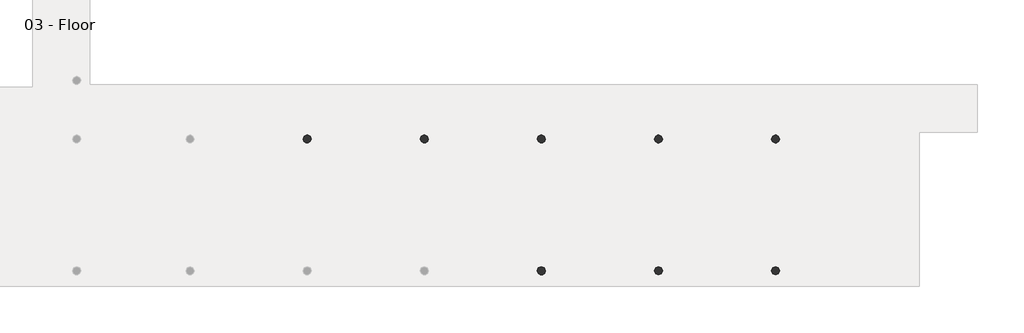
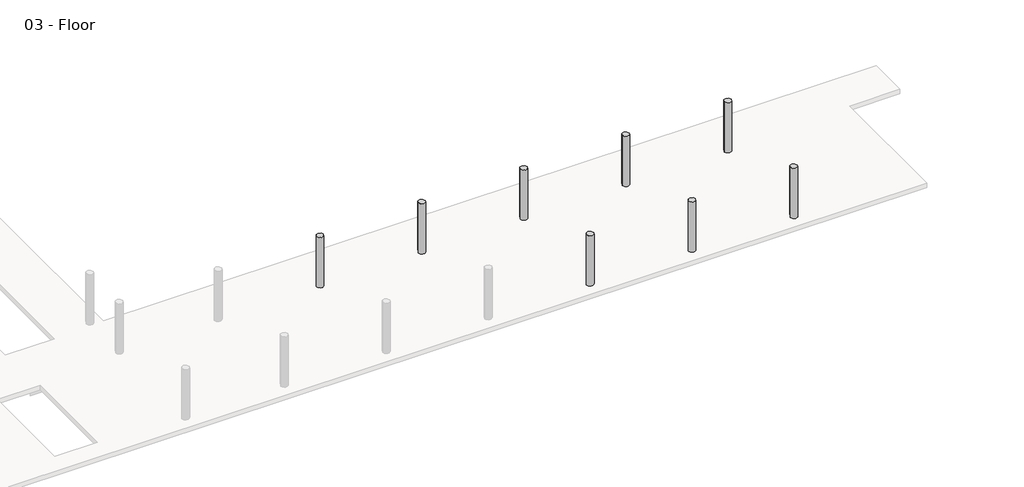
# One storey, part 4 of 8: 15 beams, 8 columns.
"""IFC4 building model written with IfcOpenShell, lengths in millimetres."""

from ifc_helpers import new_model, si_unit, point, frame, frame_2d, origin, place, context, project, spatial, polyline, circle_curve, trimmed, segment, composite_curve, outline, extrude, element, save
from ifc_brep_helpers import plane_surface, revolved_surface, advanced_brep

model = new_model("IFC4")

# Units and contexts
model_context = context("Model", 3, world=origin())
ifc_project = project(units=[si_unit("LENGTHUNIT", "METRE", prefix="MILLI")], contexts=[model_context])

# Site, building, storey
site = spatial("IfcSite", under=ifc_project)
building = spatial("IfcBuilding", under=site)
storey = spatial("IfcBuildingStorey", under=building, Name="03 - Floor", Elevation=7600.0)

# Beams
placement = place(None, origin())
element("IfcBeam", 1, ObjectType="M_Concrete-Rectangular Beam : 400 x 800mm", at=placement, inside=storey, context=model_context, shape_type="AdvancedBrep", body=[
    advanced_brep(
    [(32254.0005584, -15422.9390207, 6800.0), (32254.0005584, -15519.8613801, 6800.0), (32254.0005584, -22435.0613801, 6800.0), (32254.0005584, -22531.9837394, 6800.0), (32254.0005584, -22531.9837394, 7300.0), (32254.0005584, -22435.0613801, 7300.0), (32254.0005584, -15519.8613801, 7300.0), (32254.0005584, -15422.9390207, 7300.0), (32654.0005584, -15422.9390207, 6800.0), (32654.0005584, -15519.8613801, 6800.0), (32654.0005584, -22435.0613801, 6800.0), (32654.0005584, -22531.9837394, 6800.0), (32654.0005584, -15422.9390207, 7300.0), (32654.0005584, -15519.8613801, 7300.0), (32654.0005584, -22435.0613801, 7300.0), (32654.0005584, -22531.9837394, 7300.0)],
    [
        (0, 1),
        (1, 2),
        (2, 3),
        (3, 4),
        (4, 5),
        (5, 6),
        (6, 7),
        (7, 0),
        (0, 8, circle_curve(frame((32454.0005584, -15319.8613801, 6800.0), z_axis=(0.0, 0.0, 1.0), x_axis=(-1.0, 0.0, 0.0)), 225.0)),
        (8, 9),
        (9, 10),
        (10, 11),
        (11, 3, circle_curve(frame((32454.0005584, -22635.0613801, 6800.0), z_axis=(0.0, 0.0, 1.0), x_axis=(-1.0, 0.0, 0.0)), 225.0)),
        (8, 12),
        (12, 13),
        (13, 14),
        (14, 15),
        (15, 11),
        (7, 12, circle_curve(frame((32454.0005584, -15319.8613801, 7300.0), z_axis=(0.0, 0.0, 1.0), x_axis=(-1.0, 0.0, 0.0)), 225.0)),
        (15, 4, circle_curve(frame((32454.0005584, -22635.0613801, 7300.0), z_axis=(0.0, 0.0, 1.0), x_axis=(-1.0, 0.0, 0.0)), 225.0)),
    ],
    [
        plane_surface(frame((32254.0005584, -22397.3613801, 7600.0), z_axis=(-1.0, 0.0, 0.0), x_axis=(0.0, 1.0, 0.0))),
        plane_surface(frame((32254.0005584, -22397.3613801, 6800.0), z_axis=(0.0, 0.0, -1.0), x_axis=(0.0, 1.0, 0.0))),
        plane_surface(frame((32654.0005584, -22397.3613801, 6800.0), z_axis=(1.0, 0.0, 0.0), x_axis=(0.0, 1.0, 0.0))),
        revolved_surface(polyline([(32229.0005584, -15319.8613801, 7300.0), (32229.0005584, -15319.8613801, 6800.0)]), (32454.0005584, -15319.8613801, 3800.0), (0.0, 0.0, 1.0)),
        revolved_surface(polyline([(32229.0005584, -22635.0613801, 7300.0), (32229.0005584, -22635.0613801, 6800.0)]), (32454.0005584, -22635.0613801, 3800.0), (0.0, 0.0, 1.0)),
        plane_surface(frame((24268.8999097, 30514.0407562, 7300.0), z_axis=(0.0, 0.0, 1.0), x_axis=(0.0, -1.0, 0.0))),
    ],
    [
        (0, [[1, 2, 3, 4, 5, 6, 7, 8]]),
        (1, [[9, 10, 11, 12, 13, -3, -2, -1]]),
        (2, [[-12, -11, -10, 14, 15, 16, 17, 18]]),
        (3, [[-9, -8, 19, -14]]),
        (4, [[-13, -18, 20, -4]]),
        (5, [[-7, -6, -5, -20, -17, -16, -15, -19]]),
    ],
),
])
element("IfcBeam", 2, ObjectType="M_Concrete-Rectangular Beam : 400 x 800mm", at=placement, inside=storey, context=model_context, shape_type="AdvancedBrep", body=[
    advanced_brep(
    [(38756.4005584, -15422.9390207, 6800.0), (38756.4005584, -15519.8613801, 6800.0), (38756.4005584, -22435.0613801, 6800.0), (38756.4005584, -22531.9837394, 6800.0), (38756.4005584, -22531.9837394, 7300.0), (38756.4005584, -22435.0613801, 7300.0), (38756.4005584, -15519.8613801, 7300.0), (38756.4005584, -15422.9390207, 7300.0), (39156.4005584, -15422.9390207, 6800.0), (39156.4005584, -15519.8613801, 6800.0), (39156.4005584, -22435.0613801, 6800.0), (39156.4005584, -22531.9837394, 6800.0), (39156.4005584, -15422.9390207, 7300.0), (39156.4005584, -15519.8613801, 7300.0), (39156.4005584, -22435.0613801, 7300.0), (39156.4005584, -22531.9837394, 7300.0)],
    [
        (0, 1),
        (1, 2),
        (2, 3),
        (3, 4),
        (4, 5),
        (5, 6),
        (6, 7),
        (7, 0),
        (0, 8, circle_curve(frame((38956.4005584, -15319.8613801, 6800.0), z_axis=(0.0, 0.0, 1.0), x_axis=(-1.0, 0.0, 0.0)), 225.0)),
        (8, 9),
        (9, 10),
        (10, 11),
        (11, 3, circle_curve(frame((38956.4005584, -22635.0613801, 6800.0), z_axis=(0.0, 0.0, 1.0), x_axis=(-1.0, 0.0, 0.0)), 225.0)),
        (8, 12),
        (12, 13),
        (13, 14),
        (14, 15),
        (15, 11),
        (7, 12, circle_curve(frame((38956.4005584, -15319.8613801, 7300.0), z_axis=(0.0, 0.0, 1.0), x_axis=(-1.0, 0.0, 0.0)), 225.0)),
        (15, 4, circle_curve(frame((38956.4005584, -22635.0613801, 7300.0), z_axis=(0.0, 0.0, 1.0), x_axis=(-1.0, 0.0, 0.0)), 225.0)),
    ],
    [
        plane_surface(frame((38756.4005584, -22397.3613801, 7600.0), z_axis=(-1.0, 0.0, 0.0), x_axis=(0.0, 1.0, 0.0))),
        plane_surface(frame((38756.4005584, -22397.3613801, 6800.0), z_axis=(0.0, 0.0, -1.0), x_axis=(0.0, 1.0, 0.0))),
        plane_surface(frame((39156.4005584, -22397.3613801, 6800.0), z_axis=(1.0, 0.0, 0.0), x_axis=(0.0, 1.0, 0.0))),
        revolved_surface(polyline([(38731.4005584, -15319.8613801, 7300.0), (38731.4005584, -15319.8613801, 6800.0)]), (38956.4005584, -15319.8613801, 3800.0), (0.0, 0.0, 1.0)),
        revolved_surface(polyline([(38731.4005584, -22635.0613801, 7300.0), (38731.4005584, -22635.0613801, 6800.0)]), (38956.4005584, -22635.0613801, 3800.0), (0.0, 0.0, 1.0)),
        plane_surface(frame((24268.8999097, 30514.0407562, 7300.0), z_axis=(0.0, 0.0, 1.0), x_axis=(0.0, -1.0, 0.0))),
    ],
    [
        (0, [[1, 2, 3, 4, 5, 6, 7, 8]]),
        (1, [[9, 10, 11, 12, 13, -3, -2, -1]]),
        (2, [[-12, -11, -10, 14, 15, 16, 17, 18]]),
        (3, [[-9, -8, 19, -14]]),
        (4, [[-13, -18, 20, -4]]),
        (5, [[-7, -6, -5, -20, -17, -16, -15, -19]]),
    ],
),
])
element("IfcBeam", 3, ObjectType="M_Concrete-Rectangular Beam : 400 x 800mm", at=placement, inside=storey, context=model_context, shape_type="AdvancedBrep", body=[
    advanced_brep(
    [(45258.8005584, -15422.9390207, 6800.0), (45258.8005584, -15519.8613801, 6800.0), (45258.8005584, -22435.0613801, 6800.0), (45258.8005584, -22531.9837394, 6800.0), (45258.8005584, -22531.9837394, 7300.0), (45258.8005584, -22435.0613801, 7300.0), (45258.8005584, -15519.8613801, 7300.0), (45258.8005584, -15422.9390207, 7300.0), (45658.8005584, -15422.9390207, 6800.0), (45658.8005584, -15519.8613801, 6800.0), (45658.8005584, -22435.0613801, 6800.0), (45658.8005584, -22531.9837394, 6800.0), (45658.8005584, -15422.9390207, 7300.0), (45658.8005584, -15519.8613801, 7300.0), (45658.8005584, -22435.0613801, 7300.0), (45658.8005584, -22531.9837394, 7300.0)],
    [
        (0, 1),
        (1, 2),
        (2, 3),
        (3, 4),
        (4, 5),
        (5, 6),
        (6, 7),
        (7, 0),
        (0, 8, circle_curve(frame((45458.8005584, -15319.8613801, 6800.0), z_axis=(0.0, 0.0, 1.0), x_axis=(-1.0, 0.0, 0.0)), 225.0)),
        (8, 9),
        (9, 10),
        (10, 11),
        (11, 3, circle_curve(frame((45458.8005584, -22635.0613801, 6800.0), z_axis=(0.0, 0.0, 1.0), x_axis=(-1.0, 0.0, 0.0)), 225.0)),
        (8, 12),
        (12, 13),
        (13, 14),
        (14, 15),
        (15, 11),
        (7, 12, circle_curve(frame((45458.8005584, -15319.8613801, 7300.0), z_axis=(0.0, 0.0, 1.0), x_axis=(-1.0, 0.0, 0.0)), 225.0)),
        (15, 4, circle_curve(frame((45458.8005584, -22635.0613801, 7300.0), z_axis=(0.0, 0.0, 1.0), x_axis=(-1.0, 0.0, 0.0)), 225.0)),
    ],
    [
        plane_surface(frame((45258.8005584, -22397.3613801, 7600.0), z_axis=(-1.0, 0.0, 0.0), x_axis=(0.0, 1.0, 0.0))),
        plane_surface(frame((45258.8005584, -22397.3613801, 6800.0), z_axis=(0.0, 0.0, -1.0), x_axis=(0.0, 1.0, 0.0))),
        plane_surface(frame((45658.8005584, -22397.3613801, 6800.0), z_axis=(1.0, 0.0, 0.0), x_axis=(0.0, 1.0, 0.0))),
        revolved_surface(polyline([(45233.8005584, -15319.8613801, 7300.0), (45233.8005584, -15319.8613801, 6800.0)]), (45458.8005584, -15319.8613801, 3800.0), (0.0, 0.0, 1.0)),
        revolved_surface(polyline([(45233.8005584, -22635.0613801, 7300.0), (45233.8005584, -22635.0613801, 6800.0)]), (45458.8005584, -22635.0613801, 3800.0), (0.0, 0.0, 1.0)),
        plane_surface(frame((24268.8999097, 30514.0407562, 7300.0), z_axis=(0.0, 0.0, 1.0), x_axis=(0.0, -1.0, 0.0))),
    ],
    [
        (0, [[1, 2, 3, 4, 5, 6, 7, 8]]),
        (1, [[9, 10, 11, 12, 13, -3, -2, -1]]),
        (2, [[-12, -11, -10, 14, 15, 16, 17, 18]]),
        (3, [[-9, -8, 19, -14]]),
        (4, [[-13, -18, 20, -4]]),
        (5, [[-7, -6, -5, -20, -17, -16, -15, -19]]),
    ],
),
])
element("IfcBeam", 4, ObjectType="M_Concrete-Rectangular Beam : 400 x 800mm", at=placement, inside=storey, context=model_context, shape_type="AdvancedBrep", body=[
    advanced_brep(
    [(45355.7229178, -15119.8613801, 6800.0), (45258.8005584, -15119.8613801, 6800.0), (39156.4005584, -15119.8613801, 6800.0), (39059.478199, -15119.8613801, 6800.0), (39059.478199, -15119.8613801, 7300.0), (39156.4005584, -15119.8613801, 7300.0), (45258.8005584, -15119.8613801, 7300.0), (45355.7229178, -15119.8613801, 7300.0), (39156.4005584, -15519.8613801, 6800.0), (39156.4005584, -15422.9390207, 6800.0), (39181.4005584, -15319.8613801, 6800.0), (45233.8005584, -15319.8613801, 6800.0), (45258.8005584, -15422.9390207, 6800.0), (45258.8005584, -15519.8613801, 6800.0), (45258.8005584, -15519.8613801, 7300.0), (39156.4005584, -15519.8613801, 7300.0), (39156.4005584, -15422.9390207, 7300.0), (39181.4005584, -15319.8613801, 7300.0), (45258.8005584, -15422.9390207, 7300.0), (45233.8005584, -15319.8613801, 7300.0)],
    [
        (0, 1),
        (1, 2),
        (2, 3),
        (3, 4),
        (4, 5),
        (5, 6),
        (6, 7),
        (7, 0),
        (8, 9),
        (9, 10, circle_curve(frame((38956.4005584, -15319.8613801, 6800.0), z_axis=(0.0, 0.0, 1.0), x_axis=(-1.0, 0.0, 0.0)), 225.0)),
        (10, 3, circle_curve(frame((38956.4005584, -15319.8613801, 6800.0), z_axis=(0.0, 0.0, 1.0), x_axis=(-1.0, 0.0, 0.0)), 225.0)),
        (0, 11, circle_curve(frame((45458.8005584, -15319.8613801, 6800.0), z_axis=(0.0, 0.0, 1.0), x_axis=(-1.0, 0.0, 0.0)), 225.0)),
        (11, 12, circle_curve(frame((45458.8005584, -15319.8613801, 6800.0), z_axis=(0.0, 0.0, 1.0), x_axis=(-1.0, 0.0, 0.0)), 225.0)),
        (12, 13),
        (13, 8),
        (13, 14),
        (14, 15),
        (15, 8),
        (15, 16),
        (16, 9),
        (16, 17, circle_curve(frame((38956.4005584, -15319.8613801, 7300.0), z_axis=(0.0, 0.0, 1.0), x_axis=(-1.0, 0.0, 0.0)), 225.0)),
        (17, 10),
        (17, 4, circle_curve(frame((38956.4005584, -15319.8613801, 7300.0), z_axis=(0.0, 0.0, 1.0), x_axis=(-1.0, 0.0, 0.0)), 225.0)),
        (12, 18),
        (18, 14),
        (11, 19),
        (19, 18, circle_curve(frame((45458.8005584, -15319.8613801, 7300.0), z_axis=(0.0, 0.0, 1.0), x_axis=(-1.0, 0.0, 0.0)), 225.0)),
        (7, 19, circle_curve(frame((45458.8005584, -15319.8613801, 7300.0), z_axis=(0.0, 0.0, 1.0), x_axis=(-1.0, 0.0, 0.0)), 225.0)),
    ],
    [
        plane_surface(frame((39194.1005584, -15119.8613801, 7200.0), z_axis=(0.0, 1.0, 0.0), x_axis=(0.0, 0.0, -1.0))),
        plane_surface(frame((39194.1005584, -15319.8613801, 6800.0), z_axis=(0.0, 0.0, -1.0), x_axis=(0.0, -1.0, 0.0))),
        plane_surface(frame((39194.1005584, -15519.8613801, 7200.0), z_axis=(0.0, -1.0, 0.0), x_axis=(0.0, 0.0, 1.0))),
        plane_surface(frame((39156.4005584, -22397.3613801, 6800.0), z_axis=(-1.0, 0.0, 0.0), x_axis=(0.0, 1.0, 0.0))),
        revolved_surface(polyline([(38731.4005584, -15319.8613801, 7300.0), (38731.4005584, -15319.8613801, 6800.0)]), (38956.4005584, -15319.8613801, 3800.0), (0.0, 0.0, 1.0)),
        plane_surface(frame((45258.8005584, -22397.3613801, 7600.0), z_axis=(1.0, 0.0, 0.0), x_axis=(0.0, 1.0, 0.0))),
        revolved_surface(polyline([(45233.8005584, -15319.8613801, 7300.0), (45233.8005584, -15319.8613801, 6800.0)]), (45458.8005584, -15319.8613801, 3800.0), (0.0, 0.0, 1.0)),
        plane_surface(frame((24268.8999097, 30514.0407562, 7300.0), z_axis=(0.0, 0.0, 1.0), x_axis=(0.0, -1.0, 0.0))),
    ],
    [
        (0, [[1, 2, 3, 4, 5, 6, 7, 8]]),
        (1, [[9, 10, 11, -3, -2, -1, 12, 13, 14, 15]]),
        (2, [[-15, 16, 17, 18]]),
        (3, [[-9, -18, 19, 20]]),
        (4, [[-10, -20, 21, 22]]),
        (4, [[-11, -22, 23, -4]]),
        (5, [[-14, 24, 25, -16]]),
        (6, [[-13, 26, 27, -24]]),
        (6, [[-12, -8, 28, -26]]),
        (7, [[-7, -6, -5, -23, -21, -19, -17, -25, -27, -28]]),
    ],
),
])
element("IfcBeam", 5, ObjectType="M_Concrete-Rectangular Beam : 400 x 800mm", at=placement, inside=storey, context=model_context, shape_type="AdvancedBrep", body=[
    advanced_brep(
    [(38853.3229178, -15119.8613801, 6800.0), (38756.4005584, -15119.8613801, 6800.0), (32654.0005584, -15119.8613801, 6800.0), (32557.078199, -15119.8613801, 6800.0), (32557.078199, -15119.8613801, 7300.0), (32654.0005584, -15119.8613801, 7300.0), (38756.4005584, -15119.8613801, 7300.0), (38853.3229178, -15119.8613801, 7300.0), (32654.0005584, -15519.8613801, 6800.0), (32654.0005584, -15422.9390207, 6800.0), (32679.0005584, -15319.8613801, 6800.0), (38731.4005584, -15319.8613801, 6800.0), (38756.4005584, -15422.9390207, 6800.0), (38756.4005584, -15519.8613801, 6800.0), (38756.4005584, -15519.8613801, 7300.0), (32654.0005584, -15519.8613801, 7300.0), (32654.0005584, -15422.9390207, 7300.0), (32679.0005584, -15319.8613801, 7300.0), (38756.4005584, -15422.9390207, 7300.0), (38731.4005584, -15319.8613801, 7300.0)],
    [
        (0, 1),
        (1, 2),
        (2, 3),
        (3, 4),
        (4, 5),
        (5, 6),
        (6, 7),
        (7, 0),
        (8, 9),
        (9, 10, circle_curve(frame((32454.0005584, -15319.8613801, 6800.0), z_axis=(0.0, 0.0, 1.0), x_axis=(-1.0, 0.0, 0.0)), 225.0)),
        (10, 3, circle_curve(frame((32454.0005584, -15319.8613801, 6800.0), z_axis=(0.0, 0.0, 1.0), x_axis=(-1.0, 0.0, 0.0)), 225.0)),
        (0, 11, circle_curve(frame((38956.4005584, -15319.8613801, 6800.0), z_axis=(0.0, 0.0, 1.0), x_axis=(-1.0, 0.0, 0.0)), 225.0)),
        (11, 12, circle_curve(frame((38956.4005584, -15319.8613801, 6800.0), z_axis=(0.0, 0.0, 1.0), x_axis=(-1.0, 0.0, 0.0)), 225.0)),
        (12, 13),
        (13, 8),
        (13, 14),
        (14, 15),
        (15, 8),
        (15, 16),
        (16, 9),
        (16, 17, circle_curve(frame((32454.0005584, -15319.8613801, 7300.0), z_axis=(0.0, 0.0, 1.0), x_axis=(-1.0, 0.0, 0.0)), 225.0)),
        (17, 10),
        (17, 4, circle_curve(frame((32454.0005584, -15319.8613801, 7300.0), z_axis=(0.0, 0.0, 1.0), x_axis=(-1.0, 0.0, 0.0)), 225.0)),
        (12, 18),
        (18, 14),
        (11, 19),
        (19, 18, circle_curve(frame((38956.4005584, -15319.8613801, 7300.0), z_axis=(0.0, 0.0, 1.0), x_axis=(-1.0, 0.0, 0.0)), 225.0)),
        (7, 19, circle_curve(frame((38956.4005584, -15319.8613801, 7300.0), z_axis=(0.0, 0.0, 1.0), x_axis=(-1.0, 0.0, 0.0)), 225.0)),
    ],
    [
        plane_surface(frame((32691.7005584, -15119.8613801, 7200.0), z_axis=(0.0, 1.0, 0.0), x_axis=(0.0, 0.0, -1.0))),
        plane_surface(frame((32691.7005584, -15319.8613801, 6800.0), z_axis=(0.0, 0.0, -1.0), x_axis=(0.0, -1.0, 0.0))),
        plane_surface(frame((32691.7005584, -15519.8613801, 7200.0), z_axis=(0.0, -1.0, 0.0), x_axis=(0.0, 0.0, 1.0))),
        plane_surface(frame((32654.0005584, -22397.3613801, 6800.0), z_axis=(-1.0, 0.0, 0.0), x_axis=(0.0, 1.0, 0.0))),
        revolved_surface(polyline([(32229.0005584, -15319.8613801, 7300.0), (32229.0005584, -15319.8613801, 6800.0)]), (32454.0005584, -15319.8613801, 3800.0), (0.0, 0.0, 1.0)),
        plane_surface(frame((38756.4005584, -22397.3613801, 7600.0), z_axis=(1.0, 0.0, 0.0), x_axis=(0.0, 1.0, 0.0))),
        revolved_surface(polyline([(38731.4005584, -15319.8613801, 7300.0), (38731.4005584, -15319.8613801, 6800.0)]), (38956.4005584, -15319.8613801, 3800.0), (0.0, 0.0, 1.0)),
        plane_surface(frame((24268.8999097, 30514.0407562, 7300.0), z_axis=(0.0, 0.0, 1.0), x_axis=(0.0, -1.0, 0.0))),
    ],
    [
        (0, [[1, 2, 3, 4, 5, 6, 7, 8]]),
        (1, [[9, 10, 11, -3, -2, -1, 12, 13, 14, 15]]),
        (2, [[-15, 16, 17, 18]]),
        (3, [[-9, -18, 19, 20]]),
        (4, [[-10, -20, 21, 22]]),
        (4, [[-11, -22, 23, -4]]),
        (5, [[-14, 24, 25, -16]]),
        (6, [[-13, 26, 27, -24]]),
        (6, [[-12, -8, 28, -26]]),
        (7, [[-7, -6, -5, -23, -21, -19, -17, -25, -27, -28]]),
    ],
),
])
element("IfcBeam", 6, ObjectType="M_Concrete-Rectangular Beam : 400 x 800mm", at=placement, inside=storey, context=model_context, shape_type="AdvancedBrep", body=[
    advanced_brep(
    [(32350.9229178, -15119.8613801, 6800.0), (32254.0005584, -15119.8613801, 6800.0), (26151.6005584, -15119.8613801, 6800.0), (26054.678199, -15119.8613801, 6800.0), (26054.678199, -15119.8613801, 7300.0), (26151.6005584, -15119.8613801, 7300.0), (32254.0005584, -15119.8613801, 7300.0), (32350.9229178, -15119.8613801, 7300.0), (26151.6005584, -15519.8613801, 6800.0), (26151.6005584, -15422.9390207, 6800.0), (26176.6005584, -15319.8613801, 6800.0), (32229.0005584, -15319.8613801, 6800.0), (32254.0005584, -15422.9390207, 6800.0), (32254.0005584, -15519.8613801, 6800.0), (32254.0005584, -15519.8613801, 7300.0), (26151.6005584, -15519.8613801, 7300.0), (26151.6005584, -15422.9390207, 7300.0), (26176.6005584, -15319.8613801, 7300.0), (32254.0005584, -15422.9390207, 7300.0), (32229.0005584, -15319.8613801, 7300.0)],
    [
        (0, 1),
        (1, 2),
        (2, 3),
        (3, 4),
        (4, 5),
        (5, 6),
        (6, 7),
        (7, 0),
        (8, 9),
        (9, 10, circle_curve(frame((25951.6005584, -15319.8613801, 6800.0), z_axis=(0.0, 0.0, 1.0), x_axis=(-1.0, 0.0, 0.0)), 225.0)),
        (10, 3, circle_curve(frame((25951.6005584, -15319.8613801, 6800.0), z_axis=(0.0, 0.0, 1.0), x_axis=(-1.0, 0.0, 0.0)), 225.0)),
        (0, 11, circle_curve(frame((32454.0005584, -15319.8613801, 6800.0), z_axis=(0.0, 0.0, 1.0), x_axis=(-1.0, 0.0, 0.0)), 225.0)),
        (11, 12, circle_curve(frame((32454.0005584, -15319.8613801, 6800.0), z_axis=(0.0, 0.0, 1.0), x_axis=(-1.0, 0.0, 0.0)), 225.0)),
        (12, 13),
        (13, 8),
        (13, 14),
        (14, 15),
        (15, 8),
        (15, 16),
        (16, 9),
        (16, 17, circle_curve(frame((25951.6005584, -15319.8613801, 7300.0), z_axis=(0.0, 0.0, 1.0), x_axis=(-1.0, 0.0, 0.0)), 225.0)),
        (17, 10),
        (17, 4, circle_curve(frame((25951.6005584, -15319.8613801, 7300.0), z_axis=(0.0, 0.0, 1.0), x_axis=(-1.0, 0.0, 0.0)), 225.0)),
        (12, 18),
        (18, 14),
        (11, 19),
        (19, 18, circle_curve(frame((32454.0005584, -15319.8613801, 7300.0), z_axis=(0.0, 0.0, 1.0), x_axis=(-1.0, 0.0, 0.0)), 225.0)),
        (7, 19, circle_curve(frame((32454.0005584, -15319.8613801, 7300.0), z_axis=(0.0, 0.0, 1.0), x_axis=(-1.0, 0.0, 0.0)), 225.0)),
    ],
    [
        plane_surface(frame((26189.3005584, -15119.8613801, 7200.0), z_axis=(0.0, 1.0, 0.0), x_axis=(0.0, 0.0, -1.0))),
        plane_surface(frame((26189.3005584, -15319.8613801, 6800.0), z_axis=(0.0, 0.0, -1.0), x_axis=(0.0, -1.0, 0.0))),
        plane_surface(frame((26189.3005584, -15519.8613801, 7200.0), z_axis=(0.0, -1.0, 0.0), x_axis=(0.0, 0.0, 1.0))),
        plane_surface(frame((26151.6005584, -22397.3613801, 6800.0), z_axis=(-1.0, 0.0, 0.0), x_axis=(0.0, 1.0, 0.0))),
        revolved_surface(polyline([(25726.6005584, -15319.8613801, 7300.0), (25726.6005584, -15319.8613801, 6800.0)]), (25951.6005584, -15319.8613801, 3800.0), (0.0, 0.0, 1.0)),
        plane_surface(frame((32254.0005584, -22397.3613801, 7600.0), z_axis=(1.0, 0.0, 0.0), x_axis=(0.0, 1.0, 0.0))),
        revolved_surface(polyline([(32229.0005584, -15319.8613801, 7300.0), (32229.0005584, -15319.8613801, 6800.0)]), (32454.0005584, -15319.8613801, 3800.0), (0.0, 0.0, 1.0)),
        plane_surface(frame((24268.8999097, 30514.0407562, 7300.0), z_axis=(0.0, 0.0, 1.0), x_axis=(0.0, -1.0, 0.0))),
    ],
    [
        (0, [[1, 2, 3, 4, 5, 6, 7, 8]]),
        (1, [[9, 10, 11, -3, -2, -1, 12, 13, 14, 15]]),
        (2, [[-15, 16, 17, 18]]),
        (3, [[-9, -18, 19, 20]]),
        (4, [[-10, -20, 21, 22]]),
        (4, [[-11, -22, 23, -4]]),
        (5, [[-14, 24, 25, -16]]),
        (6, [[-13, 26, 27, -24]]),
        (6, [[-12, -8, 28, -26]]),
        (7, [[-7, -6, -5, -23, -21, -19, -17, -25, -27, -28]]),
    ],
),
])
element("IfcBeam", 7, ObjectType="M_Concrete-Rectangular Beam : 400 x 800mm", at=placement, inside=storey, context=model_context, shape_type="AdvancedBrep", body=[
    advanced_brep(
    [(25848.5229178, -15119.8613801, 6800.0), (25751.6005584, -15119.8613801, 6800.0), (19649.2005584, -15119.8613801, 6800.0), (19552.278199, -15119.8613801, 6800.0), (19552.278199, -15119.8613801, 7300.0), (19649.2005584, -15119.8613801, 7300.0), (25751.6005584, -15119.8613801, 7300.0), (25848.5229178, -15119.8613801, 7300.0), (19674.2005584, -15319.8613801, 6800.0), (25726.6005584, -15319.8613801, 6800.0), (25751.6005584, -15422.9390207, 6800.0), (25751.6005584, -15519.8613801, 6800.0), (19649.2005584, -15519.8613801, 6800.0), (19649.2005584, -15422.9390207, 6800.0), (25751.6005584, -15519.8613801, 7300.0), (19649.2005584, -15519.8613801, 7300.0), (19649.2005584, -15422.9390207, 7300.0), (19674.2005584, -15319.8613801, 7300.0), (25751.6005584, -15422.9390207, 7300.0), (25726.6005584, -15319.8613801, 7300.0)],
    [
        (0, 1),
        (1, 2),
        (2, 3),
        (3, 4),
        (4, 5),
        (5, 6),
        (6, 7),
        (7, 0),
        (8, 3, circle_curve(frame((19449.2005584, -15319.8613801, 6800.0), z_axis=(0.0, 0.0, 1.0), x_axis=(-1.0, 0.0, 0.0)), 225.0)),
        (0, 9, circle_curve(frame((25951.6005584, -15319.8613801, 6800.0), z_axis=(0.0, 0.0, 1.0), x_axis=(-1.0, 0.0, 0.0)), 225.0)),
        (9, 10, circle_curve(frame((25951.6005584, -15319.8613801, 6800.0), z_axis=(0.0, 0.0, 1.0), x_axis=(-1.0, 0.0, 0.0)), 225.0)),
        (10, 11),
        (11, 12),
        (12, 13),
        (13, 8, circle_curve(frame((19449.2005584, -15319.8613801, 6800.0), z_axis=(0.0, 0.0, 1.0), x_axis=(-1.0, 0.0, 0.0)), 225.0)),
        (11, 14),
        (14, 15),
        (15, 12),
        (13, 16),
        (16, 17, circle_curve(frame((19449.2005584, -15319.8613801, 7300.0), z_axis=(0.0, 0.0, 1.0), x_axis=(-1.0, 0.0, 0.0)), 225.0)),
        (17, 8),
        (17, 4, circle_curve(frame((19449.2005584, -15319.8613801, 7300.0), z_axis=(0.0, 0.0, 1.0), x_axis=(-1.0, 0.0, 0.0)), 225.0)),
        (10, 18),
        (18, 14),
        (9, 19),
        (19, 18, circle_curve(frame((25951.6005584, -15319.8613801, 7300.0), z_axis=(0.0, 0.0, 1.0), x_axis=(-1.0, 0.0, 0.0)), 225.0)),
        (7, 19, circle_curve(frame((25951.6005584, -15319.8613801, 7300.0), z_axis=(0.0, 0.0, 1.0), x_axis=(-1.0, 0.0, 0.0)), 225.0)),
        (15, 16),
    ],
    [
        plane_surface(frame((19686.9005584, -15119.8613801, 7200.0), z_axis=(0.0, 1.0, 0.0), x_axis=(0.0, 0.0, -1.0))),
        plane_surface(frame((19686.9005584, -15319.8613801, 6800.0), z_axis=(0.0, 0.0, -1.0), x_axis=(0.0, -1.0, 0.0))),
        plane_surface(frame((19686.9005584, -15519.8613801, 7200.0), z_axis=(0.0, -1.0, 0.0), x_axis=(0.0, 0.0, 1.0))),
        revolved_surface(polyline([(19224.2005584, -15319.8613801, 7300.0), (19224.2005584, -15319.8613801, 6800.0)]), (19449.2005584, -15319.8613801, 3800.0), (0.0, 0.0, 1.0)),
        plane_surface(frame((25751.6005584, -22397.3613801, 7600.0), z_axis=(1.0, 0.0, 0.0), x_axis=(0.0, 1.0, 0.0))),
        revolved_surface(polyline([(25726.6005584, -15319.8613801, 7300.0), (25726.6005584, -15319.8613801, 6800.0)]), (25951.6005584, -15319.8613801, 3800.0), (0.0, 0.0, 1.0)),
        plane_surface(frame((19649.2005584, -22397.3613801, 6800.0), z_axis=(-1.0, 0.0, 0.0), x_axis=(0.0, 1.0, 0.0))),
        plane_surface(frame((24268.8999097, 30514.0407562, 7300.0), z_axis=(0.0, 0.0, 1.0), x_axis=(0.0, -1.0, 0.0))),
    ],
    [
        (0, [[1, 2, 3, 4, 5, 6, 7, 8]]),
        (1, [[9, -3, -2, -1, 10, 11, 12, 13, 14, 15]]),
        (2, [[-13, 16, 17, 18]]),
        (3, [[-15, 19, 20, 21]]),
        (3, [[-9, -21, 22, -4]]),
        (4, [[-12, 23, 24, -16]]),
        (5, [[-11, 25, 26, -23]]),
        (5, [[-10, -8, 27, -25]]),
        (6, [[-14, -18, 28, -19]]),
        (7, [[-7, -6, -5, -22, -20, -28, -17, -24, -26, -27]]),
    ],
),
])
element("IfcBeam", 8, ObjectType="M_Concrete-Rectangular Beam : 400 x 800mm", at=placement, inside=storey, context=model_context, shape_type="AdvancedBrep", body=[
    advanced_brep(
    [(19346.1229178, -15119.8613801, 6800.0), (19249.2005584, -15119.8613801, 6800.0), (13146.8005584, -15119.8613801, 6800.0), (13049.878199, -15119.8613801, 6800.0), (13049.878199, -15119.8613801, 7300.0), (13146.8005584, -15119.8613801, 7300.0), (19249.2005584, -15119.8613801, 7300.0), (19346.1229178, -15119.8613801, 7300.0), (13171.8005584, -15319.8613801, 6800.0), (19224.2005584, -15319.8613801, 6800.0), (19249.2005584, -15422.9390207, 6800.0), (19249.2005584, -15519.8613801, 6800.0), (13146.8005584, -15519.8613801, 6800.0), (13146.8005584, -15422.9390207, 6800.0), (19249.2005584, -15519.8613801, 7300.0), (13146.8005584, -15519.8613801, 7300.0), (13146.8005584, -15422.9390207, 7300.0), (13171.8005584, -15319.8613801, 7300.0), (19249.2005584, -15422.9390207, 7300.0), (19224.2005584, -15319.8613801, 7300.0)],
    [
        (0, 1),
        (1, 2),
        (2, 3),
        (3, 4),
        (4, 5),
        (5, 6),
        (6, 7),
        (7, 0),
        (8, 3, circle_curve(frame((12946.8005584, -15319.8613801, 6800.0), z_axis=(0.0, 0.0, 1.0), x_axis=(-1.0, 0.0, 0.0)), 225.0)),
        (0, 9, circle_curve(frame((19449.2005584, -15319.8613801, 6800.0), z_axis=(0.0, 0.0, 1.0), x_axis=(-1.0, 0.0, 0.0)), 225.0)),
        (9, 10, circle_curve(frame((19449.2005584, -15319.8613801, 6800.0), z_axis=(0.0, 0.0, 1.0), x_axis=(-1.0, 0.0, 0.0)), 225.0)),
        (10, 11),
        (11, 12),
        (12, 13),
        (13, 8, circle_curve(frame((12946.8005584, -15319.8613801, 6800.0), z_axis=(0.0, 0.0, 1.0), x_axis=(-1.0, 0.0, 0.0)), 225.0)),
        (11, 14),
        (14, 15),
        (15, 12),
        (13, 16),
        (16, 17, circle_curve(frame((12946.8005584, -15319.8613801, 7300.0), z_axis=(0.0, 0.0, 1.0), x_axis=(-1.0, 0.0, 0.0)), 225.0)),
        (17, 8),
        (17, 4, circle_curve(frame((12946.8005584, -15319.8613801, 7300.0), z_axis=(0.0, 0.0, 1.0), x_axis=(-1.0, 0.0, 0.0)), 225.0)),
        (10, 18),
        (18, 14),
        (9, 19),
        (19, 18, circle_curve(frame((19449.2005584, -15319.8613801, 7300.0), z_axis=(0.0, 0.0, 1.0), x_axis=(-1.0, 0.0, 0.0)), 225.0)),
        (7, 19, circle_curve(frame((19449.2005584, -15319.8613801, 7300.0), z_axis=(0.0, 0.0, 1.0), x_axis=(-1.0, 0.0, 0.0)), 225.0)),
        (15, 16),
    ],
    [
        plane_surface(frame((13184.5005584, -15119.8613801, 7200.0), z_axis=(0.0, 1.0, 0.0), x_axis=(0.0, 0.0, -1.0))),
        plane_surface(frame((13184.5005584, -15319.8613801, 6800.0), z_axis=(0.0, 0.0, -1.0), x_axis=(0.0, -1.0, 0.0))),
        plane_surface(frame((13184.5005584, -15519.8613801, 7200.0), z_axis=(0.0, -1.0, 0.0), x_axis=(0.0, 0.0, 1.0))),
        revolved_surface(polyline([(12721.8005584, -15319.8613801, 7300.0), (12721.8005584, -15319.8613801, 6800.0)]), (12946.8005584, -15319.8613801, 3800.0), (0.0, 0.0, 1.0)),
        plane_surface(frame((19249.2005584, -22397.3613801, 7600.0), z_axis=(1.0, 0.0, 0.0), x_axis=(0.0, 1.0, 0.0))),
        revolved_surface(polyline([(19224.2005584, -15319.8613801, 7300.0), (19224.2005584, -15319.8613801, 6800.0)]), (19449.2005584, -15319.8613801, 3800.0), (0.0, 0.0, 1.0)),
        plane_surface(frame((13146.8005584, -22397.3613801, 6800.0), z_axis=(-1.0, 0.0, 0.0), x_axis=(0.0, 1.0, 0.0))),
        plane_surface(frame((24268.8999097, 30514.0407562, 7300.0), z_axis=(0.0, 0.0, 1.0), x_axis=(0.0, -1.0, 0.0))),
    ],
    [
        (0, [[1, 2, 3, 4, 5, 6, 7, 8]]),
        (1, [[9, -3, -2, -1, 10, 11, 12, 13, 14, 15]]),
        (2, [[-13, 16, 17, 18]]),
        (3, [[-15, 19, 20, 21]]),
        (3, [[-9, -21, 22, -4]]),
        (4, [[-12, 23, 24, -16]]),
        (5, [[-11, 25, 26, -23]]),
        (5, [[-10, -8, 27, -25]]),
        (6, [[-14, -18, 28, -19]]),
        (7, [[-7, -6, -5, -22, -20, -28, -17, -24, -26, -27]]),
    ],
),
])
element("IfcBeam", 9, ObjectType="M_Concrete-Rectangular Beam : 400 x 800mm", at=placement, inside=storey, context=model_context, shape_type="SweptSolid", body=[
    extrude(outline(composite_curve([segment(polyline([(45658.8005584, -22531.9837394), (45658.8005584, -22435.0613801), (53429.578114, -22435.0613801), (53429.578114, -22835.0613801), (45561.878199, -22835.0613801)]), True, "CONTINUOUS"), segment(trimmed(circle_curve(frame_2d((45458.8005584, -22635.0613801)), 225.0), [point((45561.878199, -22835.0613801))], [point((45683.8005584, -22635.0613801))], True, "CARTESIAN"), True, "CONTINUOUS"), segment(trimmed(circle_curve(frame_2d((45458.8005584, -22635.0613801)), 225.0), [point((45683.8005584, -22635.0613801))], [point((45658.8005584, -22531.9837394))], True, "CARTESIAN"), True, "CONTINUOUS")], self_intersect=False)), frame((0.0, 0.0, 6800.0), z_axis=(0.0, 0.0, 1.0), x_axis=(1.0, 0.0, 0.0)), (0.0, 0.0, 1.0), 500.0),
])
element("IfcBeam", 10, ObjectType="M_Concrete-Rectangular Beam : 400 x 800mm", at=placement, inside=storey, context=model_context, shape_type="SweptSolid", body=[
    extrude(outline(composite_curve([segment(polyline([(39156.4005584, -22531.9837394), (39156.4005584, -22435.0613801), (45258.8005584, -22435.0613801), (45258.8005584, -22531.9837394)]), True, "CONTINUOUS"), segment(trimmed(circle_curve(frame_2d((45458.8005584, -22635.0613801)), 225.0), [point((45258.8005584, -22531.9837394))], [point((45233.8005584, -22635.0613801))], True, "CARTESIAN"), True, "CONTINUOUS"), segment(trimmed(circle_curve(frame_2d((45458.8005584, -22635.0613801)), 225.0), [point((45233.8005584, -22635.0613801))], [point((45355.7229178, -22835.0613801))], True, "CARTESIAN"), True, "CONTINUOUS"), segment(polyline([(45355.7229178, -22835.0613801), (39059.478199, -22835.0613801)]), True, "CONTINUOUS"), segment(trimmed(circle_curve(frame_2d((38956.4005584, -22635.0613801)), 225.0), [point((39059.478199, -22835.0613801))], [point((39181.4005584, -22635.0613801))], True, "CARTESIAN"), True, "CONTINUOUS"), segment(trimmed(circle_curve(frame_2d((38956.4005584, -22635.0613801)), 225.0), [point((39181.4005584, -22635.0613801))], [point((39156.4005584, -22531.9837394))], True, "CARTESIAN"), True, "CONTINUOUS")], self_intersect=False)), frame((0.0, 0.0, 6800.0), z_axis=(0.0, 0.0, 1.0), x_axis=(1.0, 0.0, 0.0)), (0.0, 0.0, 1.0), 500.0),
])
element("IfcBeam", 11, ObjectType="M_Concrete-Rectangular Beam : 400 x 800mm", at=placement, inside=storey, context=model_context, shape_type="SweptSolid", body=[
    extrude(outline(composite_curve([segment(polyline([(32654.0005584, -22531.9837394), (32654.0005584, -22435.0613801), (38756.4005584, -22435.0613801), (38756.4005584, -22531.9837394)]), True, "CONTINUOUS"), segment(trimmed(circle_curve(frame_2d((38956.4005584, -22635.0613801)), 225.0), [point((38756.4005584, -22531.9837394))], [point((38731.4005584, -22635.0613801))], True, "CARTESIAN"), True, "CONTINUOUS"), segment(trimmed(circle_curve(frame_2d((38956.4005584, -22635.0613801)), 225.0), [point((38731.4005584, -22635.0613801))], [point((38853.3229178, -22835.0613801))], True, "CARTESIAN"), True, "CONTINUOUS"), segment(polyline([(38853.3229178, -22835.0613801), (32557.078199, -22835.0613801)]), True, "CONTINUOUS"), segment(trimmed(circle_curve(frame_2d((32454.0005584, -22635.0613801)), 225.0), [point((32557.078199, -22835.0613801))], [point((32679.0005584, -22635.0613801))], True, "CARTESIAN"), True, "CONTINUOUS"), segment(trimmed(circle_curve(frame_2d((32454.0005584, -22635.0613801)), 225.0), [point((32679.0005584, -22635.0613801))], [point((32654.0005584, -22531.9837394))], True, "CARTESIAN"), True, "CONTINUOUS")], self_intersect=False)), frame((0.0, 0.0, 6800.0), z_axis=(0.0, 0.0, 1.0), x_axis=(1.0, 0.0, 0.0)), (0.0, 0.0, 1.0), 500.0),
])
element("IfcBeam", 12, ObjectType="M_Concrete-Rectangular Beam : 400 x 800mm", at=placement, inside=storey, context=model_context, shape_type="SweptSolid", body=[
    extrude(outline(composite_curve([segment(polyline([(19249.2005584, -12296.3611817), (19649.2005584, -12296.3611817), (19649.2005584, -15119.8613801), (19552.278199, -15119.8613801)]), True, "CONTINUOUS"), segment(trimmed(circle_curve(frame_2d((19449.2005584, -15319.8613801)), 225.0), [point((19552.278199, -15119.8613801))], [point((19346.1229178, -15119.8613801))], True, "CARTESIAN"), True, "CONTINUOUS"), segment(polyline([(19346.1229178, -15119.8613801), (19249.2005584, -15119.8613801), (19249.2005584, -12296.3611817)]), True, "CONTINUOUS")], self_intersect=False)), frame((0.0, 0.0, 6800.0), z_axis=(0.0, 0.0, 1.0), x_axis=(1.0, 0.0, 0.0)), (0.0, 0.0, 1.0), 500.0),
])
element("IfcBeam", 13, ObjectType="M_Concrete-Rectangular Beam : 400 x 800mm", at=placement, inside=storey, context=model_context, shape_type="SweptSolid", body=[
    extrude(outline(composite_curve([segment(polyline([(25751.6005584, -12296.3611817), (26151.6005584, -12296.3611817), (26151.6005584, -15119.8613801), (26054.678199, -15119.8613801)]), True, "CONTINUOUS"), segment(trimmed(circle_curve(frame_2d((25951.6005584, -15319.8613801)), 225.0), [point((26054.678199, -15119.8613801))], [point((25848.5229178, -15119.8613801))], True, "CARTESIAN"), True, "CONTINUOUS"), segment(polyline([(25848.5229178, -15119.8613801), (25751.6005584, -15119.8613801), (25751.6005584, -12296.3611817)]), True, "CONTINUOUS")], self_intersect=False)), frame((0.0, 0.0, 6800.0), z_axis=(0.0, 0.0, 1.0), x_axis=(1.0, 0.0, 0.0)), (0.0, 0.0, 1.0), 500.0),
])
element("IfcBeam", 14, ObjectType="M_Concrete-Rectangular Beam : 400 x 800mm", at=placement, inside=storey, context=model_context, shape_type="SweptSolid", body=[
    extrude(outline(composite_curve([segment(polyline([(32254.0005584, -12296.3611817), (32654.0005584, -12296.3611817), (32654.0005584, -15119.8613801), (32557.078199, -15119.8613801)]), True, "CONTINUOUS"), segment(trimmed(circle_curve(frame_2d((32454.0005584, -15319.8613801)), 225.0), [point((32557.078199, -15119.8613801))], [point((32350.9229178, -15119.8613801))], True, "CARTESIAN"), True, "CONTINUOUS"), segment(polyline([(32350.9229178, -15119.8613801), (32254.0005584, -15119.8613801), (32254.0005584, -12296.3611817)]), True, "CONTINUOUS")], self_intersect=False)), frame((0.0, 0.0, 6800.0), z_axis=(0.0, 0.0, 1.0), x_axis=(1.0, 0.0, 0.0)), (0.0, 0.0, 1.0), 500.0),
])
element("IfcBeam", 15, ObjectType="M_Concrete-Rectangular Beam : 400 x 800mm", at=placement, inside=storey, context=model_context, shape_type="SweptSolid", body=[
    extrude(outline(composite_curve([segment(polyline([(38756.4005584, -12296.3611817), (39156.4005584, -12296.3611817), (39156.4005584, -15119.8613801), (39059.478199, -15119.8613801)]), True, "CONTINUOUS"), segment(trimmed(circle_curve(frame_2d((38956.4005584, -15319.8613801)), 225.0), [point((39059.478199, -15119.8613801))], [point((38853.3229178, -15119.8613801))], True, "CARTESIAN"), True, "CONTINUOUS"), segment(polyline([(38853.3229178, -15119.8613801), (38756.4005584, -15119.8613801), (38756.4005584, -12296.3611817)]), True, "CONTINUOUS")], self_intersect=False)), frame((0.0, 0.0, 6800.0), z_axis=(0.0, 0.0, 1.0), x_axis=(1.0, 0.0, 0.0)), (0.0, 0.0, 1.0), 500.0),
])

# Columns
element("IfcColumn", 16, ObjectType="M_Concrete-Round-Column : 450mm", at=placement, inside=storey, context=model_context, shape_type="SweptSolid", body=[
    extrude(outline(composite_curve([segment(trimmed(circle_curve(frame_2d((19449.2005584, -15319.8613801)), 225.0), [point((19674.2005584, -15319.8613801))], [point((19224.2005584, -15319.8613801))], False, "CARTESIAN"), True, "CONTINUOUS"), segment(trimmed(circle_curve(frame_2d((19449.2005584, -15319.8613801)), 225.0), [point((19224.2005584, -15319.8613801))], [point((19674.2005584, -15319.8613801))], False, "CARTESIAN"), True, "CONTINUOUS")], self_intersect=False)), frame((0.0, 0.0, 7600.0), z_axis=(0.0, 0.0, 1.0), x_axis=(1.0, 0.0, 0.0)), (0.0, 0.0, 1.0), 3400.0),
])
element("IfcColumn", 17, ObjectType="M_Concrete-Round-Column : 450mm", at=placement, inside=storey, context=model_context, shape_type="SweptSolid", body=[
    extrude(outline(composite_curve([segment(trimmed(circle_curve(frame_2d((25951.6005584, -15319.8613801)), 225.0), [point((26176.6005584, -15319.8613801))], [point((25726.6005584, -15319.8613801))], False, "CARTESIAN"), True, "CONTINUOUS"), segment(trimmed(circle_curve(frame_2d((25951.6005584, -15319.8613801)), 225.0), [point((25726.6005584, -15319.8613801))], [point((26176.6005584, -15319.8613801))], False, "CARTESIAN"), True, "CONTINUOUS")], self_intersect=False)), frame((0.0, 0.0, 7600.0), z_axis=(0.0, 0.0, 1.0), x_axis=(1.0, 0.0, 0.0)), (0.0, 0.0, 1.0), 3400.0),
])
element("IfcColumn", 18, ObjectType="M_Concrete-Round-Column : 450mm", at=placement, inside=storey, context=model_context, shape_type="SweptSolid", body=[
    extrude(outline(composite_curve([segment(trimmed(circle_curve(frame_2d((32454.0005584, -15319.8613801)), 225.0), [point((32679.0005584, -15319.8613801))], [point((32229.0005584, -15319.8613801))], False, "CARTESIAN"), True, "CONTINUOUS"), segment(trimmed(circle_curve(frame_2d((32454.0005584, -15319.8613801)), 225.0), [point((32229.0005584, -15319.8613801))], [point((32679.0005584, -15319.8613801))], False, "CARTESIAN"), True, "CONTINUOUS")], self_intersect=False)), frame((0.0, 0.0, 7600.0), z_axis=(0.0, 0.0, 1.0), x_axis=(1.0, 0.0, 0.0)), (0.0, 0.0, 1.0), 3400.0),
])
element("IfcColumn", 19, ObjectType="M_Concrete-Round-Column : 450mm", at=placement, inside=storey, context=model_context, shape_type="SweptSolid", body=[
    extrude(outline(composite_curve([segment(trimmed(circle_curve(frame_2d((32454.0005584, -22635.0613801)), 225.0), [point((32679.0005584, -22635.0613801))], [point((32229.0005584, -22635.0613801))], False, "CARTESIAN"), True, "CONTINUOUS"), segment(trimmed(circle_curve(frame_2d((32454.0005584, -22635.0613801)), 225.0), [point((32229.0005584, -22635.0613801))], [point((32679.0005584, -22635.0613801))], False, "CARTESIAN"), True, "CONTINUOUS")], self_intersect=False)), frame((0.0, 0.0, 7600.0), z_axis=(0.0, 0.0, 1.0), x_axis=(1.0, 0.0, 0.0)), (0.0, 0.0, 1.0), 3400.0),
])
element("IfcColumn", 20, ObjectType="M_Concrete-Round-Column : 450mm", at=placement, inside=storey, context=model_context, shape_type="SweptSolid", body=[
    extrude(outline(composite_curve([segment(trimmed(circle_curve(frame_2d((38956.4005584, -15319.8613801)), 225.0), [point((39181.4005584, -15319.8613801))], [point((38731.4005584, -15319.8613801))], False, "CARTESIAN"), True, "CONTINUOUS"), segment(trimmed(circle_curve(frame_2d((38956.4005584, -15319.8613801)), 225.0), [point((38731.4005584, -15319.8613801))], [point((39181.4005584, -15319.8613801))], False, "CARTESIAN"), True, "CONTINUOUS")], self_intersect=False)), frame((0.0, 0.0, 7600.0), z_axis=(0.0, 0.0, 1.0), x_axis=(1.0, 0.0, 0.0)), (0.0, 0.0, 1.0), 3400.0),
])
element("IfcColumn", 21, ObjectType="M_Concrete-Round-Column : 450mm", at=placement, inside=storey, context=model_context, shape_type="SweptSolid", body=[
    extrude(outline(composite_curve([segment(trimmed(circle_curve(frame_2d((38956.4005584, -22635.0613801)), 225.0), [point((39181.4005584, -22635.0613801))], [point((38731.4005584, -22635.0613801))], False, "CARTESIAN"), True, "CONTINUOUS"), segment(trimmed(circle_curve(frame_2d((38956.4005584, -22635.0613801)), 225.0), [point((38731.4005584, -22635.0613801))], [point((39181.4005584, -22635.0613801))], False, "CARTESIAN"), True, "CONTINUOUS")], self_intersect=False)), frame((0.0, 0.0, 7600.0), z_axis=(0.0, 0.0, 1.0), x_axis=(1.0, 0.0, 0.0)), (0.0, 0.0, 1.0), 3400.0),
])
element("IfcColumn", 22, ObjectType="M_Concrete-Round-Column : 450mm", at=placement, inside=storey, context=model_context, shape_type="SweptSolid", body=[
    extrude(outline(composite_curve([segment(trimmed(circle_curve(frame_2d((45458.8005584, -15319.8613801)), 225.0), [point((45683.8005584, -15319.8613801))], [point((45233.8005584, -15319.8613801))], False, "CARTESIAN"), True, "CONTINUOUS"), segment(trimmed(circle_curve(frame_2d((45458.8005584, -15319.8613801)), 225.0), [point((45233.8005584, -15319.8613801))], [point((45683.8005584, -15319.8613801))], False, "CARTESIAN"), True, "CONTINUOUS")], self_intersect=False)), frame((0.0, 0.0, 7600.0), z_axis=(0.0, 0.0, 1.0), x_axis=(1.0, 0.0, 0.0)), (0.0, 0.0, 1.0), 3400.0),
])
element("IfcColumn", 23, ObjectType="M_Concrete-Round-Column : 450mm", at=placement, inside=storey, context=model_context, shape_type="SweptSolid", body=[
    extrude(outline(composite_curve([segment(trimmed(circle_curve(frame_2d((45458.8005584, -22635.0613801)), 225.0), [point((45683.8005584, -22635.0613801))], [point((45233.8005584, -22635.0613801))], False, "CARTESIAN"), True, "CONTINUOUS"), segment(trimmed(circle_curve(frame_2d((45458.8005584, -22635.0613801)), 225.0), [point((45233.8005584, -22635.0613801))], [point((45683.8005584, -22635.0613801))], False, "CARTESIAN"), True, "CONTINUOUS")], self_intersect=False)), frame((0.0, 0.0, 7600.0), z_axis=(0.0, 0.0, 1.0), x_axis=(1.0, 0.0, 0.0)), (0.0, 0.0, 1.0), 3400.0),
])

save(model, "model.ifc")
